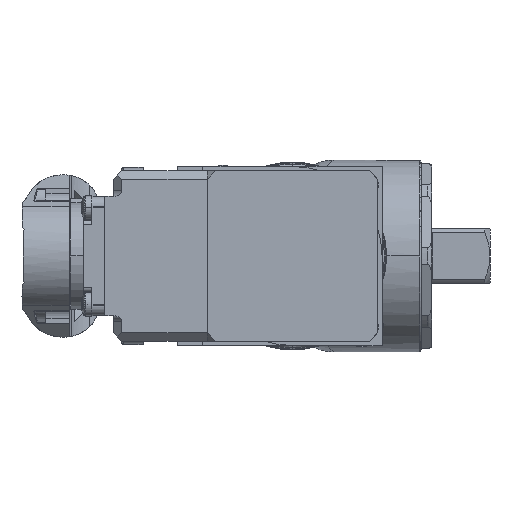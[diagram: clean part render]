
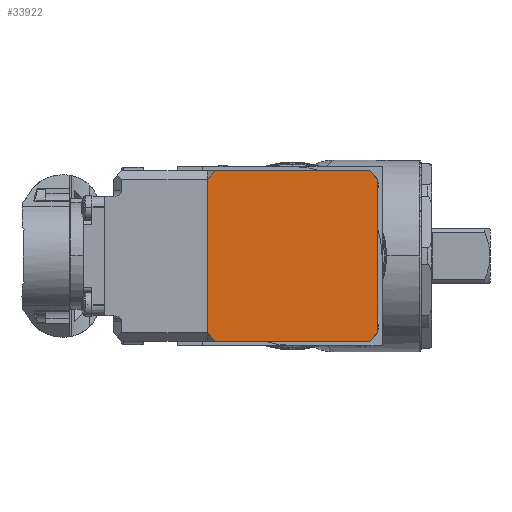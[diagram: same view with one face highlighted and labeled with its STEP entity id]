
A CAD part, left-side view. The second image highlights one B-rep face of the part: STEP entity #33922.
In plain terms, the highlighted planar face has unit normal (-1, 0, 0).
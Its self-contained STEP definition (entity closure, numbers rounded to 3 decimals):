
#1065 = FACE_OUTER_BOUND ( 'NONE', #58219, .T. ) ;
#1610 = EDGE_CURVE ( 'NONE', #44375, #66925, #29302, .T. ) ;
#2038 = DIRECTION ( 'NONE',  ( -1., 0., 0. ) ) ;
#2778 = CARTESIAN_POINT ( 'NONE',  ( -113., -20., -18. ) ) ;
#2796 = VECTOR ( 'NONE', #12900, 1000. ) ;
#6093 = LINE ( 'NONE', #44487, #2796 ) ;
#7811 = CARTESIAN_POINT ( 'NONE',  ( -113., 18., 20. ) ) ;
#11900 = CARTESIAN_POINT ( 'NONE',  ( -113., 20., -18. ) ) ;
#12135 = LINE ( 'NONE', #12253, #52548 ) ;
#12253 = CARTESIAN_POINT ( 'NONE',  ( -113., -20., 18. ) ) ;
#12900 = DIRECTION ( 'NONE',  ( 0., 1., 0. ) ) ;
#17483 = PLANE ( 'NONE',  #37495 ) ;
#17707 = CARTESIAN_POINT ( 'NONE',  ( -113., 0., 0. ) ) ;
#18628 = VECTOR ( 'NONE', #19792, 1000. ) ;
#19538 = VECTOR ( 'NONE', #34386, 1000. ) ;
#19792 = DIRECTION ( 'NONE',  ( 0., 0., -1. ) ) ;
#20437 = VERTEX_POINT ( 'NONE', #63222 ) ;
#20513 = VECTOR ( 'NONE', #39172, 1000. ) ;
#21525 = DIRECTION ( 'NONE',  ( 0., -0.707, 0.707 ) ) ;
#22176 = LINE ( 'NONE', #7811, #20513 ) ;
#22496 = DIRECTION ( 'NONE',  ( 0., -0.707, -0.707 ) ) ;
#24664 = VERTEX_POINT ( 'NONE', #48501 ) ;
#26391 = VECTOR ( 'NONE', #39659, 1000. ) ;
#26443 = ORIENTED_EDGE ( 'NONE', *, *, #1610, .T. ) ;
#26819 = ORIENTED_EDGE ( 'NONE', *, *, #39073, .T. ) ;
#29059 = VERTEX_POINT ( 'NONE', #54820 ) ;
#29302 = LINE ( 'NONE', #30137, #18628 ) ;
#29607 = CARTESIAN_POINT ( 'NONE',  ( -113., -18., 20. ) ) ;
#30137 = CARTESIAN_POINT ( 'NONE',  ( -113., 20., 18. ) ) ;
#30612 = CARTESIAN_POINT ( 'NONE',  ( -113., -20., -18. ) ) ;
#30868 = EDGE_CURVE ( 'NONE', #66499, #54585, #49327, .T. ) ;
#32925 = ORIENTED_EDGE ( 'NONE', *, *, #66848, .T. ) ;
#33922 = ADVANCED_FACE ( 'NONE', ( #1065 ), #17483, .T. ) ;
#34386 = DIRECTION ( 'NONE',  ( 0., -1., 0. ) ) ;
#36893 = LINE ( 'NONE', #60590, #19538 ) ;
#37495 = AXIS2_PLACEMENT_3D ( 'NONE', #17707, #2038, #38919 ) ;
#38800 = LINE ( 'NONE', #2778, #26391 ) ;
#38919 = DIRECTION ( 'NONE',  ( 0., 0., 1. ) ) ;
#39073 = EDGE_CURVE ( 'NONE', #20437, #62083, #12135, .T. ) ;
#39152 = EDGE_CURVE ( 'NONE', #29059, #66499, #36893, .T. ) ;
#39172 = DIRECTION ( 'NONE',  ( 0., 0.707, -0.707 ) ) ;
#39268 = CARTESIAN_POINT ( 'NONE',  ( -113., 20., 18. ) ) ;
#39659 = DIRECTION ( 'NONE',  ( 0., 0., 1. ) ) ;
#44375 = VERTEX_POINT ( 'NONE', #39268 ) ;
#44487 = CARTESIAN_POINT ( 'NONE',  ( -113., -18., 20. ) ) ;
#45149 = CARTESIAN_POINT ( 'NONE',  ( -113., 20., -18. ) ) ;
#45931 = ORIENTED_EDGE ( 'NONE', *, *, #53378, .T. ) ;
#46143 = ORIENTED_EDGE ( 'NONE', *, *, #52307, .T. ) ;
#46823 = CARTESIAN_POINT ( 'NONE',  ( -113., -18., -20. ) ) ;
#47179 = ORIENTED_EDGE ( 'NONE', *, *, #39152, .T. ) ;
#48501 = CARTESIAN_POINT ( 'NONE',  ( -113., 18., 20. ) ) ;
#49156 = DIRECTION ( 'NONE',  ( 0., 0.707, 0.707 ) ) ;
#49327 = LINE ( 'NONE', #58338, #61623 ) ;
#52307 = EDGE_CURVE ( 'NONE', #66925, #29059, #54763, .T. ) ;
#52548 = VECTOR ( 'NONE', #49156, 1000. ) ;
#53378 = EDGE_CURVE ( 'NONE', #62083, #24664, #6093, .T. ) ;
#54585 = VERTEX_POINT ( 'NONE', #30612 ) ;
#54763 = LINE ( 'NONE', #11900, #67045 ) ;
#54820 = CARTESIAN_POINT ( 'NONE',  ( -113., 18., -20. ) ) ;
#58219 = EDGE_LOOP ( 'NONE', ( #61564, #62588, #26819, #45931, #32925, #26443, #46143, #47179 ) ) ;
#58338 = CARTESIAN_POINT ( 'NONE',  ( -113., -18., -20. ) ) ;
#60590 = CARTESIAN_POINT ( 'NONE',  ( -113., 18., -20. ) ) ;
#61403 = EDGE_CURVE ( 'NONE', #54585, #20437, #38800, .T. ) ;
#61564 = ORIENTED_EDGE ( 'NONE', *, *, #30868, .T. ) ;
#61623 = VECTOR ( 'NONE', #21525, 1000. ) ;
#62083 = VERTEX_POINT ( 'NONE', #29607 ) ;
#62588 = ORIENTED_EDGE ( 'NONE', *, *, #61403, .T. ) ;
#63222 = CARTESIAN_POINT ( 'NONE',  ( -113., -20., 18. ) ) ;
#66499 = VERTEX_POINT ( 'NONE', #46823 ) ;
#66848 = EDGE_CURVE ( 'NONE', #24664, #44375, #22176, .T. ) ;
#66925 = VERTEX_POINT ( 'NONE', #45149 ) ;
#67045 = VECTOR ( 'NONE', #22496, 1000. ) ;
